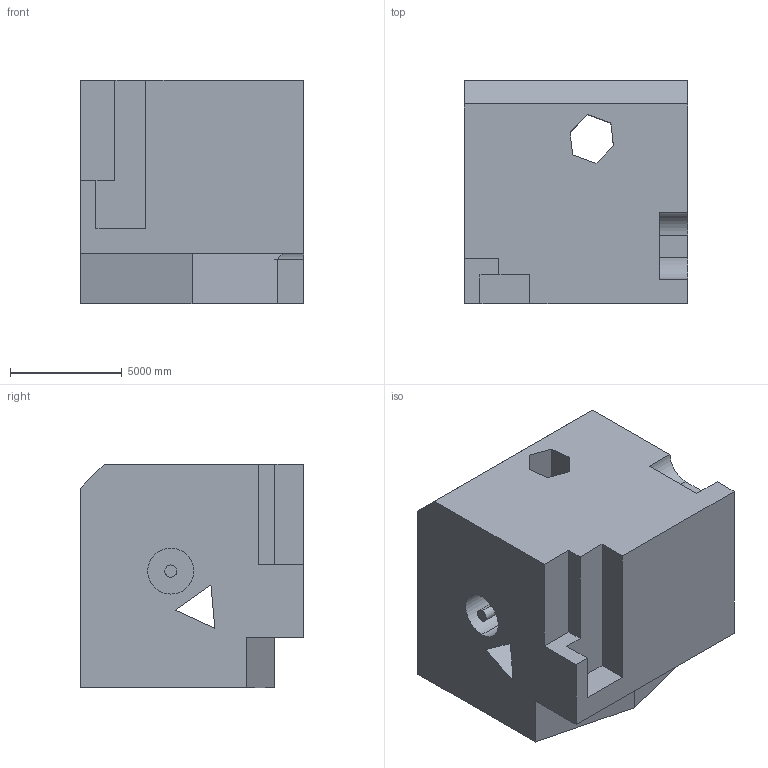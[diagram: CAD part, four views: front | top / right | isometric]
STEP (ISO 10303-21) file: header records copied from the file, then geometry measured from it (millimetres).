
FILE_DESCRIPTION (( 'STEP AP203' ), '1' );
FILE_NAME ('173.STEP', '2022-08-31T12:09:31', ( 'user' ), ( '' ), 'SwSTEP 2.0', 'SolidWorks 2021', '' );
FILE_SCHEMA (( 'CONFIG_CONTROL_DESIGN' ));
Length unit declared in the file: centimetre
Products named in the file (1): 173
Bounding box: 10000 x 10000 x 10000 mm (x, y, z)
Volume: 852677229016.3 mm3; surface area: 738231982 mm2
Topology: 1 solids, 1 shells, 40 faces, 108 edges, 72 vertices
Faces by surface type: plane 33, cylinder 7
Entity records: 1331 total; most frequent: CARTESIAN_POINT 224, ORIENTED_EDGE 216, DIRECTION 203, EDGE_CURVE 108, VECTOR 93, LINE 93, VERTEX_POINT 72, AXIS2_PLACEMENT_3D 55
